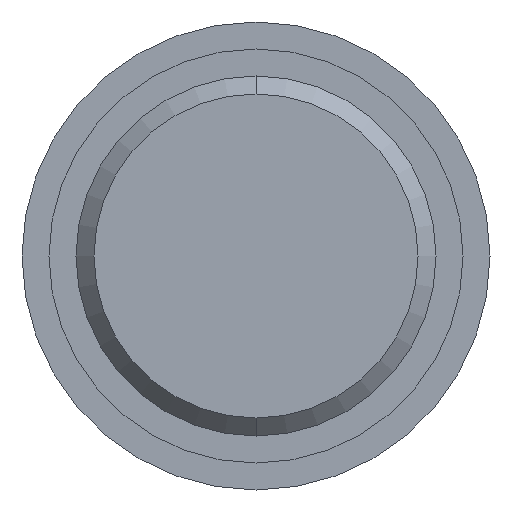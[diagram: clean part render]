
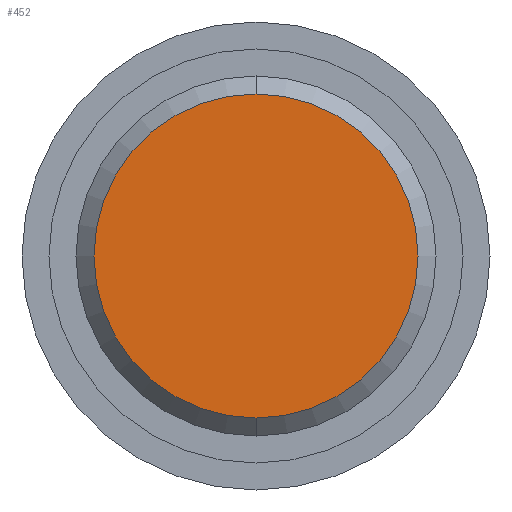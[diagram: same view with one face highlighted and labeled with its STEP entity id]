
A CAD part, front view. The second image highlights one B-rep face of the part: STEP entity #452.
In plain terms, the highlighted planar face has unit normal (0, -1, 0).
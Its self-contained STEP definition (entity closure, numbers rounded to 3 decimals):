
#141=CARTESIAN_POINT('',(0.,0.,0.));
#142=DIRECTION('',(0.,-1.,0.));
#143=DIRECTION('',(0.,0.,-1.));
#144=AXIS2_PLACEMENT_3D('',#141,#142,#143);
#154=CARTESIAN_POINT('',(0.,0.,0.));
#155=DIRECTION('',(0.,1.,0.));
#156=DIRECTION('',(0.,0.,-1.));
#157=AXIS2_PLACEMENT_3D('',#154,#155,#156);
#165=CARTESIAN_POINT('',(0.,0.,-0.9));
#167=VERTEX_POINT('',#165);
#185=CARTESIAN_POINT('',(0.,0.,0.9));
#187=VERTEX_POINT('',#185);
#443=CARTESIAN_POINT('',(0.,0.,0.));
#444=DIRECTION('',(0.,-1.,0.));
#445=DIRECTION('',(0.,0.,1.));
#446=AXIS2_PLACEMENT_3D('',#443,#444,#445);
#447=PLANE('',#446);
#448=ORIENTED_EDGE('',*,*,#438,.T.);
#449=ORIENTED_EDGE('',*,*,#422,.F.);
#450=EDGE_LOOP('',(#448,#449));
#451=FACE_OUTER_BOUND('',#450,.F.);
#452=ADVANCED_FACE('',(#451),#447,.T.);
#145=CIRCLE('',#144,0.9);
#158=CIRCLE('',#157,0.9);
#422=EDGE_CURVE('',#167,#187,#145,.T.);
#438=EDGE_CURVE('',#167,#187,#158,.T.);
